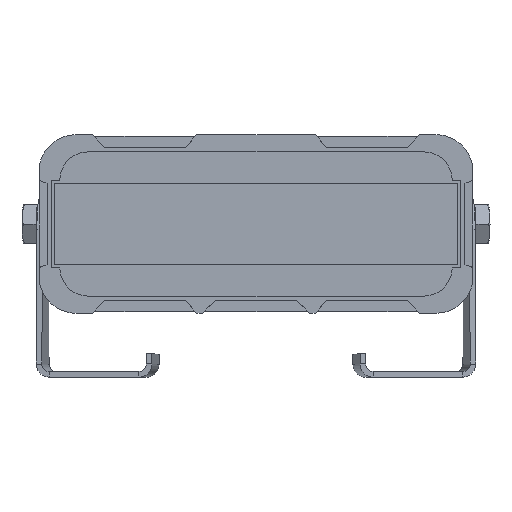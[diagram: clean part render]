
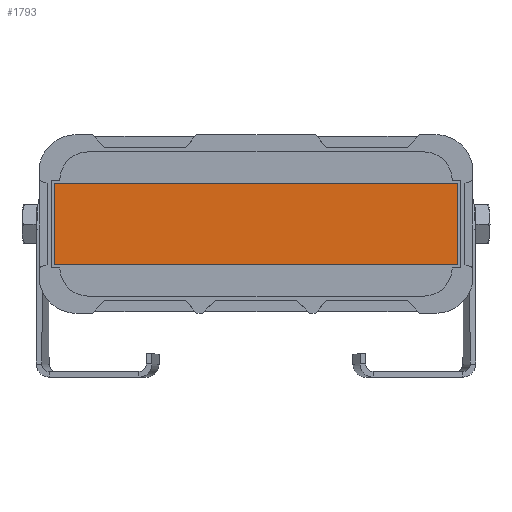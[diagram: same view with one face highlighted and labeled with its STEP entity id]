
A CAD part, top view. The second image highlights one B-rep face of the part: STEP entity #1793.
In plain terms, the highlighted planar face has unit normal (0, 0, 1).
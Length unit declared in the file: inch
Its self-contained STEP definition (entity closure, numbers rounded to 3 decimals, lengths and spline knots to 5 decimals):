
#39 = EDGE_CURVE ( 'NONE', #8185, #9105, #15259, .T. ) ;
#698 = LINE ( 'NONE', #3108, #3690 ) ;
#1525 = DIRECTION ( 'NONE',  ( 0., 0., -1. ) ) ;
#1793 = ADVANCED_FACE ( 'NONE', ( #13373 ), #3587, .F. ) ;
#2503 = CARTESIAN_POINT ( 'NONE',  ( 2.62063, 0.544, 0. ) ) ;
#2933 = VECTOR ( 'NONE', #5192, 39.37008 ) ;
#3108 = CARTESIAN_POINT ( 'NONE',  ( 2.69212, 0.544, 0. ) ) ;
#3305 = CARTESIAN_POINT ( 'NONE',  ( -2.69212, -0.544, 0. ) ) ;
#3368 = EDGE_LOOP ( 'NONE', ( #10077, #4023, #9959, #4975 ) ) ;
#3587 = PLANE ( 'NONE',  #5934 ) ;
#3690 = VECTOR ( 'NONE', #15740, 39.37008 ) ;
#3700 = EDGE_CURVE ( 'NONE', #9187, #7650, #8199, .T. ) ;
#3704 = CARTESIAN_POINT ( 'NONE',  ( 2.89063, -1.1925, 0. ) ) ;
#4023 = ORIENTED_EDGE ( 'NONE', *, *, #14999, .F. ) ;
#4600 = CARTESIAN_POINT ( 'NONE',  ( -2.69212, 0.544, 0. ) ) ;
#4975 = ORIENTED_EDGE ( 'NONE', *, *, #10320, .F. ) ;
#5039 = DIRECTION ( 'NONE',  ( 1., 0., 0. ) ) ;
#5192 = DIRECTION ( 'NONE',  ( 0., 1., 0. ) ) ;
#5934 = AXIS2_PLACEMENT_3D ( 'NONE', #3704, #1525, #10363 ) ;
#7650 = VERTEX_POINT ( 'NONE', #3305 ) ;
#8185 = VERTEX_POINT ( 'NONE', #4600 ) ;
#8199 = LINE ( 'NONE', #11926, #14495 ) ;
#8947 = CARTESIAN_POINT ( 'NONE',  ( -2.69212, 0.544, 0. ) ) ;
#9105 = VERTEX_POINT ( 'NONE', #13951 ) ;
#9187 = VERTEX_POINT ( 'NONE', #10368 ) ;
#9959 = ORIENTED_EDGE ( 'NONE', *, *, #39, .F. ) ;
#10077 = ORIENTED_EDGE ( 'NONE', *, *, #3700, .F. ) ;
#10320 = EDGE_CURVE ( 'NONE', #7650, #8185, #13005, .T. ) ;
#10363 = DIRECTION ( 'NONE',  ( 0., 1., 0. ) ) ;
#10368 = CARTESIAN_POINT ( 'NONE',  ( 2.69212, -0.544, 0. ) ) ;
#11926 = CARTESIAN_POINT ( 'NONE',  ( 2.62063, -0.544, 0. ) ) ;
#12295 = VECTOR ( 'NONE', #5039, 39.37008 ) ;
#13005 = LINE ( 'NONE', #8947, #2933 ) ;
#13373 = FACE_OUTER_BOUND ( 'NONE', #3368, .T. ) ;
#13951 = CARTESIAN_POINT ( 'NONE',  ( 2.69212, 0.544, 0. ) ) ;
#14451 = DIRECTION ( 'NONE',  ( -1., 0., 0. ) ) ;
#14495 = VECTOR ( 'NONE', #14451, 39.37008 ) ;
#14999 = EDGE_CURVE ( 'NONE', #9105, #9187, #698, .T. ) ;
#15259 = LINE ( 'NONE', #2503, #12295 ) ;
#15740 = DIRECTION ( 'NONE',  ( 0., -1., 0. ) ) ;
